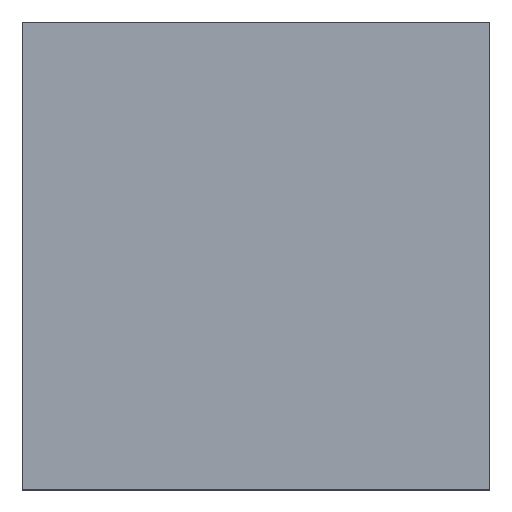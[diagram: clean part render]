
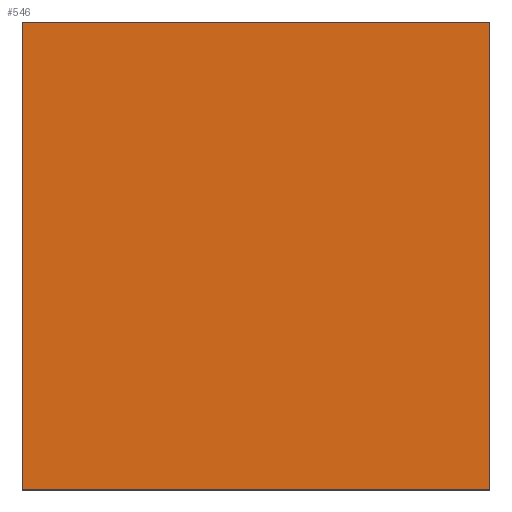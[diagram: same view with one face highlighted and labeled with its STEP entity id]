
A CAD part, top view. The second image highlights one B-rep face of the part: STEP entity #546.
In plain terms, the highlighted planar face has unit normal (0, 0, 1).
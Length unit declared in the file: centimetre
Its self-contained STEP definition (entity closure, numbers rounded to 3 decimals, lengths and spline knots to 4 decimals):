
#63 = VERTEX_POINT ( 'NONE', #426 ) ;
#66 = DIRECTION ( 'NONE',  ( 1., 0., 0. ) ) ;
#73 = PLANE ( 'NONE',  #758 ) ;
#112 = VECTOR ( 'NONE', #66, 100. ) ;
#163 = LINE ( 'NONE', #528, #627 ) ;
#198 = FACE_OUTER_BOUND ( 'NONE', #637, .T. ) ;
#236 = VERTEX_POINT ( 'NONE', #375 ) ;
#288 = DIRECTION ( 'NONE',  ( 0., -1., 0. ) ) ;
#298 = ORIENTED_EDGE ( 'NONE', *, *, #563, .T. ) ;
#336 = DIRECTION ( 'NONE',  ( 0., 1., 0. ) ) ;
#375 = CARTESIAN_POINT ( 'NONE',  ( 0., 1000., 1000. ) ) ;
#376 = EDGE_CURVE ( 'NONE', #400, #236, #384, .T. ) ;
#378 = DIRECTION ( 'NONE',  ( 1., 0., 0. ) ) ;
#384 = LINE ( 'NONE', #390, #806 ) ;
#386 = CARTESIAN_POINT ( 'NONE',  ( 0., 0., 1000. ) ) ;
#390 = CARTESIAN_POINT ( 'NONE',  ( 0., 1000., 1000. ) ) ;
#400 = VERTEX_POINT ( 'NONE', #583 ) ;
#406 = VECTOR ( 'NONE', #288, 100. ) ;
#426 = CARTESIAN_POINT ( 'NONE',  ( 0., 0., 1000. ) ) ;
#507 = ORIENTED_EDGE ( 'NONE', *, *, #376, .T. ) ;
#515 = VERTEX_POINT ( 'NONE', #828 ) ;
#528 = CARTESIAN_POINT ( 'NONE',  ( 1000., 1000., 1000. ) ) ;
#546 = ADVANCED_FACE ( 'NONE', ( #198 ), #73, .T. ) ;
#563 = EDGE_CURVE ( 'NONE', #63, #515, #700, .T. ) ;
#583 = CARTESIAN_POINT ( 'NONE',  ( 1000., 1000., 1000. ) ) ;
#593 = ORIENTED_EDGE ( 'NONE', *, *, #836, .T. ) ;
#627 = VECTOR ( 'NONE', #336, 100. ) ;
#637 = EDGE_LOOP ( 'NONE', ( #593, #298, #697, #507 ) ) ;
#644 = CARTESIAN_POINT ( 'NONE',  ( 0., 0., 1000. ) ) ;
#651 = DIRECTION ( 'NONE',  ( 0., 0., 1. ) ) ;
#657 = CARTESIAN_POINT ( 'NONE',  ( 0., 1000., 1000. ) ) ;
#675 = EDGE_CURVE ( 'NONE', #515, #400, #163, .T. ) ;
#697 = ORIENTED_EDGE ( 'NONE', *, *, #675, .T. ) ;
#700 = LINE ( 'NONE', #644, #112 ) ;
#706 = DIRECTION ( 'NONE',  ( -1., 0., 0. ) ) ;
#715 = LINE ( 'NONE', #657, #406 ) ;
#758 = AXIS2_PLACEMENT_3D ( 'NONE', #386, #651, #378 ) ;
#806 = VECTOR ( 'NONE', #706, 100. ) ;
#828 = CARTESIAN_POINT ( 'NONE',  ( 1000., 0., 1000. ) ) ;
#836 = EDGE_CURVE ( 'NONE', #236, #63, #715, .T. ) ;
